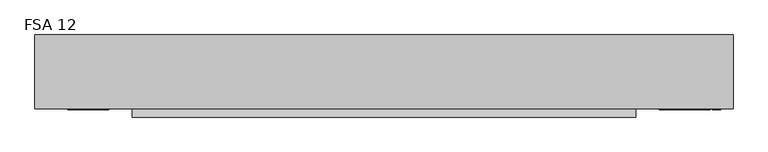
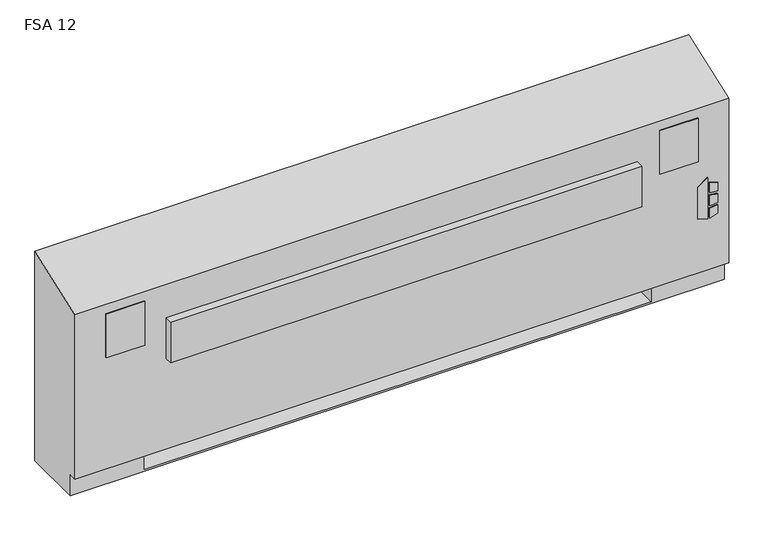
"""IFC4 building model written with IfcOpenShell, lengths in millimetres: proxy geometry, Vertical_Fan_Coil_Unit_-_FSA_-_IEC_-_2-Pipe_FS-FR_LH_2022 : FSA 12."""

from ifc_helpers import new_model, si_unit, point, frame, frame_2d, origin, place, context, project, spatial, polyline, circle_curve, trimmed, segment, composite_curve, outline, extrude, source, transform, mapped, element, save
from ifc_brep_helpers import plane_surface, revolved_surface, advanced_brep


def fsa_12_a108baa8(model_context):
    return source(origin(), model_context, "Body", "SolidModel", [
        extrude(outline(polyline([(263.9480703, 1128.7868862), (254.0, 1160.9602728), (396.1709244, 1160.9602728), (373.1489183, 1128.7868862), (263.9480703, 1128.7868862)])), frame((0.0, 12.7, 0.0), z_axis=(0.0, 1.0, 0.0), x_axis=(0.0, 0.0, 1.0)), (0.0, 0.0, 1.0), 3.175),
        extrude(outline(polyline([(342.9473557, 1167.7186058), (339.7449632, 1193.8), (368.9738042, 1193.8), (377.0382193, 1167.7186058), (342.9473557, 1167.7186058)])), frame((0.0, 12.7, 0.0), z_axis=(0.0, 1.0, 0.0), x_axis=(0.0, 0.0, 1.0)), (0.0, 0.0, 1.0), 3.175),
        extrude(outline(polyline([(291.0838288, 1193.8), (287.4183279, 1167.7186058), (254.0, 1167.7186058), (262.6342372, 1193.8), (291.0838288, 1193.8)])), frame((0.0, 12.7, 0.0), z_axis=(0.0, 1.0, 0.0), x_axis=(0.0, 0.0, 1.0)), (0.0, 0.0, 1.0), 3.175),
        extrude(outline(polyline([(330.3989903, 1193.8), (332.6808166, 1167.7186058), (296.7432681, 1167.7186058), (299.4845331, 1193.8), (330.3989903, 1193.8)])), frame((0.0, 12.7, 0.0), z_axis=(0.0, 1.0, 0.0), x_axis=(0.0, 0.0, 1.0)), (0.0, 0.0, 1.0), 3.175),
        extrude(outline(polyline([(1111.25, 223.266), (1111.25, 81.534), (990.6, 81.534), (990.6, 223.266), (1111.25, 223.266)])), frame((0.0, 0.0, 327.025), z_axis=(0.0, 0.0, 1.0), x_axis=(1.0, 0.0, 0.0)), (0.0, 0.0, 1.0), 260.35),
        extrude(outline(polyline([(-698.5, 12.7), (-825.5, 12.7), (-825.5, 15.875), (-698.5, 15.875), (-698.5, 12.7)])), frame((0.0, 0.0, 463.55), z_axis=(0.0, 0.0, 1.0), x_axis=(1.0, 0.0, 0.0)), (0.0, 0.0, 1.0), 152.4),
        extrude(outline(polyline([(1130.3, 12.7), (1003.3, 12.7), (1003.3, 15.875), (1130.3, 15.875), (1130.3, 12.7)])), frame((0.0, 0.0, 463.55), z_axis=(0.0, 0.0, 1.0), x_axis=(1.0, 0.0, 0.0)), (0.0, 0.0, 1.0), 152.4),
        extrude(outline(composite_curve([segment(trimmed(circle_curve(frame_2d((-749.3, 130.175)), 9.525), [point((-758.825, 130.175))], [point((-739.775, 130.175))], False, "CARTESIAN"), True, "CONTINUOUS"), segment(trimmed(circle_curve(frame_2d((-749.3, 130.175)), 9.525), [point((-739.775, 130.175))], [point((-758.825, 130.175))], False, "CARTESIAN"), True, "CONTINUOUS")], self_intersect=False)), frame((0.0, 0.0, 101.6), z_axis=(0.0, 0.0, 1.0), x_axis=(1.0, 0.0, 0.0)), (0.0, 0.0, 1.0), 25.4),
        extrude(outline(polyline([(-850.9, 63.5), (-850.9, 196.85), (-685.8, 196.85), (-685.8, 63.5), (-850.9, 63.5)])), frame((0.0, 0.0, 127.0), z_axis=(0.0, 0.0, 1.0), x_axis=(1.0, 0.0, 0.0)), (0.0, 0.0, 1.0), 50.8),
        extrude(outline(polyline([(930.275, -9.525), (-625.475, -9.525), (-625.475, 15.875), (930.275, 15.875), (930.275, -9.525)])), frame((0.0, 0.0, 389.3009245), z_axis=(0.0, 0.0, 1.0), x_axis=(1.0, 0.0, 0.0)), (0.0, 0.0, 1.0), 142.875),
        extrude(outline(composite_curve([segment(trimmed(circle_curve(frame_2d((109.347, 456.819)), 7.9375), [point((109.347, 464.7565))], [point((109.347, 448.8815))], False, "CARTESIAN"), True, "CONTINUOUS"), segment(trimmed(circle_curve(frame_2d((109.347, 456.819)), 7.9375), [point((109.347, 448.8815))], [point((109.347, 464.7565))], False, "CARTESIAN"), True, "CONTINUOUS")], self_intersect=False)), frame((-736.6, 0.0, 0.0), z_axis=(1.0, 0.0, 0.0), x_axis=(0.0, 1.0, 0.0)), (0.0, 0.0, 1.0), 50.8),
        extrude(outline(composite_curve([segment(trimmed(circle_curve(frame_2d((157.4546, 429.4632)), 7.9375), [point((157.4546, 437.4007))], [point((157.4546, 421.5257))], False, "CARTESIAN"), True, "CONTINUOUS"), segment(trimmed(circle_curve(frame_2d((157.4546, 429.4632)), 7.9375), [point((157.4546, 421.5257))], [point((157.4546, 437.4007))], False, "CARTESIAN"), True, "CONTINUOUS")], self_intersect=False)), frame((-736.6, 0.0, 0.0), z_axis=(1.0, 0.0, 0.0), x_axis=(0.0, 1.0, 0.0)), (0.0, 0.0, 1.0), 50.8),
        advanced_brep(
        [(-927.1, 244.475, 0.0), (1231.9, 244.475, 0.0), (1231.9, 41.275, 0.0), (-927.1, 41.275, 0.0), (-927.1, 244.475, 730.25), (1231.9, 244.475, 730.25), (990.6, 244.475, 73.025), (1219.2, 244.475, 73.025), (1219.2, 244.475, 654.05), (990.6, 244.475, 654.05), (990.6, 244.475, 414.8650565), (1019.175, 244.475, 414.8650565), (1019.175, 244.475, 385.2349435), (990.6, 244.475, 385.2349435), (990.6, 244.475, 287.3375), (1019.175, 244.475, 287.3375), (1019.175, 244.475, 258.7625), (990.6, 244.475, 258.7625), (990.6, 244.475, 141.2875), (1019.175, 244.475, 141.2875), (1019.175, 244.475, 112.7125), (990.6, 244.475, 112.7125), (-685.8, 244.475, 654.05), (-914.4, 244.475, 654.05), (-914.4, 244.475, 73.025), (-685.8, 244.475, 73.025), (-685.8, 244.475, 112.7125), (-714.375, 244.475, 112.7125), (-714.375, 244.475, 141.2875), (-685.8, 244.475, 141.2875), (-685.8, 244.475, 258.7625), (-714.375, 244.475, 258.7625), (-714.375, 244.475, 287.3375), (-685.8, 244.475, 287.3375), (-685.8, 244.475, 385.2349435), (-714.375, 244.475, 385.2349435), (-714.375, 244.475, 414.8650565), (-685.8, 244.475, 414.8650565), (1008.8626, 244.475, 127.0), (997.7374, 244.475, 127.0), (1008.8626, 244.475, 400.05), (997.7374, 244.475, 400.05), (1008.8626, 244.475, 273.05), (997.7374, 244.475, 273.05), (-692.9374, 244.475, 127.0), (-704.0626, 244.475, 127.0), (-692.9374, 244.475, 273.05), (-704.0626, 244.475, 273.05), (-692.9374, 244.475, 400.05), (-704.0626, 244.475, 400.05), (-927.1, 41.275, 73.025), (-927.1, 15.875, 73.025), (-927.1, 15.875, 647.7), (1231.9, 15.875, 73.025), (1231.9, 15.875, 647.7), (1231.9, 41.275, 73.025), (-685.8, 41.275, 73.025), (-685.8, 225.425, 73.025), (990.6, 225.425, 73.025), (990.6, 41.275, 73.025), (990.6, 41.275, 6.35), (-685.8, 41.275, 6.35), (990.6, 41.275, 654.05), (1219.2, 41.275, 654.05), (1219.2, 41.275, 73.025), (990.6, 41.275, 73.025), (-685.8, 41.275, 654.05), (-685.8, 41.275, 73.025), (-914.4, 41.275, 73.025), (-914.4, 41.275, 654.05), (990.6, 225.425, 73.025), (990.6, 238.125, 112.7125), (990.6, 238.125, 141.2875), (990.6, 238.125, 258.7625), (990.6, 238.125, 287.3375), (990.6, 238.125, 385.2349435), (990.6, 238.125, 414.8650565), (-685.8, 225.425, 73.025), (-685.8, 238.125, 414.8650565), (-685.8, 238.125, 385.2349435), (-685.8, 238.125, 287.3375), (-685.8, 238.125, 258.7625), (-685.8, 238.125, 141.2875), (-685.8, 238.125, 112.7125), (-685.8, 225.425, 6.35), (990.6, 225.425, 6.35), (1019.175, 238.125, 112.7125), (1019.175, 238.125, 141.2875), (997.7374, 238.125, 127.0), (1008.8626, 238.125, 127.0), (1019.175, 238.125, 258.7625), (1019.175, 238.125, 287.3375), (997.7374, 238.125, 273.05), (1008.8626, 238.125, 273.05), (1019.175, 238.125, 385.2349435), (1019.175, 238.125, 414.8650565), (997.7374, 238.125, 400.05), (1008.8626, 238.125, 400.05), (-714.375, 238.125, 141.2875), (-714.375, 238.125, 112.7125), (-704.0626, 238.125, 127.0), (-692.9374, 238.125, 127.0), (-714.375, 238.125, 287.3375), (-714.375, 238.125, 258.7625), (-704.0626, 238.125, 273.05), (-692.9374, 238.125, 273.05), (-714.375, 238.125, 414.8650565), (-714.375, 238.125, 385.2349435), (-704.0626, 238.125, 400.05), (-692.9374, 238.125, 400.05)],
        [
            (0, 1),
            (1, 2),
            (2, 3),
            (3, 0),
            (0, 4),
            (4, 5),
            (5, 1),
            (6, 7),
            (7, 8),
            (8, 9),
            (9, 10),
            (10, 11),
            (11, 12),
            (12, 13),
            (13, 14),
            (14, 15),
            (15, 16),
            (16, 17),
            (17, 18),
            (18, 19),
            (19, 20),
            (20, 21),
            (21, 6),
            (22, 23),
            (23, 24),
            (24, 25),
            (25, 26),
            (26, 27),
            (27, 28),
            (28, 29),
            (29, 30),
            (30, 31),
            (31, 32),
            (32, 33),
            (33, 34),
            (34, 35),
            (35, 36),
            (36, 37),
            (37, 22),
            (38, 39, circle_curve(frame((1003.3, 244.475, 127.0), z_axis=(0.0, -1.0, 0.0), x_axis=(-1.0, 0.0, 0.0)), 5.5626)),
            (39, 38, circle_curve(frame((1003.3, 244.475, 127.0), z_axis=(0.0, -1.0, 0.0), x_axis=(-1.0, 0.0, 0.0)), 5.5626)),
            (40, 41, circle_curve(frame((1003.3, 244.475, 400.05), z_axis=(0.0, -1.0, 0.0), x_axis=(-1.0, 0.0, 0.0)), 5.5626)),
            (41, 40, circle_curve(frame((1003.3, 244.475, 400.05), z_axis=(0.0, -1.0, 0.0), x_axis=(-1.0, 0.0, 0.0)), 5.5626)),
            (42, 43, circle_curve(frame((1003.3, 244.475, 273.05), z_axis=(0.0, -1.0, 0.0), x_axis=(-1.0, 0.0, 0.0)), 5.5626)),
            (43, 42, circle_curve(frame((1003.3, 244.475, 273.05), z_axis=(0.0, -1.0, 0.0), x_axis=(-1.0, 0.0, 0.0)), 5.5626)),
            (44, 45, circle_curve(frame((-698.5, 244.475, 127.0), z_axis=(0.0, -1.0, 0.0), x_axis=(-1.0, 0.0, 0.0)), 5.5626)),
            (45, 44, circle_curve(frame((-698.5, 244.475, 127.0), z_axis=(0.0, -1.0, 0.0), x_axis=(-1.0, 0.0, 0.0)), 5.5626)),
            (46, 47, circle_curve(frame((-698.5, 244.475, 273.05), z_axis=(0.0, -1.0, 0.0), x_axis=(-1.0, 0.0, 0.0)), 5.5626)),
            (47, 46, circle_curve(frame((-698.5, 244.475, 273.05), z_axis=(0.0, -1.0, 0.0), x_axis=(-1.0, 0.0, 0.0)), 5.5626)),
            (48, 49, circle_curve(frame((-698.5, 244.475, 400.05), z_axis=(0.0, -1.0, 0.0), x_axis=(-1.0, 0.0, 0.0)), 5.5626)),
            (49, 48, circle_curve(frame((-698.5, 244.475, 400.05), z_axis=(0.0, -1.0, 0.0), x_axis=(-1.0, 0.0, 0.0)), 5.5626)),
            (3, 50),
            (50, 51),
            (51, 52),
            (52, 4),
            (51, 53),
            (53, 54),
            (54, 52),
            (5, 54),
            (53, 55),
            (55, 2),
            (50, 56),
            (56, 57),
            (57, 58),
            (58, 59),
            (59, 55),
            (59, 60),
            (60, 61),
            (61, 56),
            (62, 63),
            (63, 64),
            (64, 65),
            (65, 62),
            (66, 67),
            (67, 68),
            (68, 69),
            (69, 66),
            (65, 70),
            (70, 6),
            (21, 71),
            (71, 72),
            (72, 18),
            (17, 73),
            (73, 74),
            (74, 14),
            (13, 75),
            (75, 76),
            (76, 10),
            (9, 62),
            (64, 7),
            (63, 8),
            (69, 23),
            (22, 66),
            (68, 24),
            (67, 77),
            (77, 25),
            (37, 78),
            (78, 79),
            (79, 34),
            (33, 80),
            (80, 81),
            (81, 30),
            (29, 82),
            (82, 83),
            (83, 26),
            (57, 84),
            (84, 85),
            (85, 58),
            (85, 60),
            (84, 61),
            (71, 86),
            (86, 87),
            (87, 72),
            (88, 89, circle_curve(frame((1003.3, 238.125, 127.0), z_axis=(0.0, 1.0, 0.0), x_axis=(-1.0, 0.0, 0.0)), 5.5626)),
            (89, 88, circle_curve(frame((1003.3, 238.125, 127.0), z_axis=(0.0, 1.0, 0.0), x_axis=(-1.0, 0.0, 0.0)), 5.5626)),
            (73, 90),
            (90, 91),
            (91, 74),
            (92, 93, circle_curve(frame((1003.3, 238.125, 273.05), z_axis=(0.0, 1.0, 0.0), x_axis=(-1.0, 0.0, 0.0)), 5.5626)),
            (93, 92, circle_curve(frame((1003.3, 238.125, 273.05), z_axis=(0.0, 1.0, 0.0), x_axis=(-1.0, 0.0, 0.0)), 5.5626)),
            (75, 94),
            (94, 95),
            (95, 76),
            (96, 97, circle_curve(frame((1003.3, 238.125, 400.05), z_axis=(0.0, 1.0, 0.0), x_axis=(-1.0, 0.0, 0.0)), 5.5626)),
            (97, 96, circle_curve(frame((1003.3, 238.125, 400.05), z_axis=(0.0, 1.0, 0.0), x_axis=(-1.0, 0.0, 0.0)), 5.5626)),
            (98, 99),
            (99, 83),
            (82, 98),
            (100, 101, circle_curve(frame((-698.5, 238.125, 127.0), z_axis=(0.0, 1.0, 0.0), x_axis=(-1.0, 0.0, 0.0)), 5.5626)),
            (101, 100, circle_curve(frame((-698.5, 238.125, 127.0), z_axis=(0.0, 1.0, 0.0), x_axis=(-1.0, 0.0, 0.0)), 5.5626)),
            (102, 103),
            (103, 81),
            (80, 102),
            (104, 105, circle_curve(frame((-698.5, 238.125, 273.05), z_axis=(0.0, 1.0, 0.0), x_axis=(-1.0, 0.0, 0.0)), 5.5626)),
            (105, 104, circle_curve(frame((-698.5, 238.125, 273.05), z_axis=(0.0, 1.0, 0.0), x_axis=(-1.0, 0.0, 0.0)), 5.5626)),
            (106, 107),
            (107, 79),
            (78, 106),
            (108, 109, circle_curve(frame((-698.5, 238.125, 400.05), z_axis=(0.0, 1.0, 0.0), x_axis=(-1.0, 0.0, 0.0)), 5.5626)),
            (109, 108, circle_curve(frame((-698.5, 238.125, 400.05), z_axis=(0.0, 1.0, 0.0), x_axis=(-1.0, 0.0, 0.0)), 5.5626)),
            (87, 19),
            (86, 20),
            (91, 15),
            (90, 16),
            (95, 11),
            (94, 12),
            (28, 98),
            (99, 27),
            (32, 102),
            (103, 31),
            (36, 106),
            (107, 35),
            (88, 39),
            (38, 89),
            (96, 41),
            (40, 97),
            (92, 43),
            (42, 93),
            (100, 45),
            (44, 101),
            (104, 47),
            (46, 105),
            (108, 49),
            (48, 109),
        ],
        [
            plane_surface(frame((-927.1, 244.475, 0.0), z_axis=(0.0, 0.0, -1.0), x_axis=(1.0, 0.0, 0.0))),
            plane_surface(frame((1231.9, 244.475, 730.25), z_axis=(0.0, 1.0, 0.0), x_axis=(0.0, 0.0, -1.0))),
            plane_surface(frame((-927.1, 244.475, 730.25), z_axis=(-1.0, 0.0, 0.0), x_axis=(0.0, 0.0, -1.0))),
            plane_surface(frame((-927.1, 15.875, 730.25), z_axis=(0.0, -1.0, 0.0), x_axis=(0.0, 0.0, -1.0))),
            plane_surface(frame((1231.9, 15.875, 730.25), z_axis=(1.0, 0.0, 0.0), x_axis=(0.0, 0.0, -1.0))),
            plane_surface(frame((-927.1, 15.875, 73.025), z_axis=(0.0, 0.0, -1.0), x_axis=(1.0, 0.0, 0.0))),
            plane_surface(frame((-927.1, 41.275, 73.025), z_axis=(0.0, -1.0, 0.0), x_axis=(1.0, 0.0, 0.0))),
            plane_surface(frame((990.6, 41.275, 654.05), z_axis=(0.0, 1.0, 0.0), x_axis=(0.0, 0.0, -1.0))),
            plane_surface(frame((990.6, 41.275, 654.05), z_axis=(1.0, 0.0, 0.0), x_axis=(0.0, 1.0, 0.0))),
            plane_surface(frame((990.6, 41.275, 73.025), z_axis=(0.0, 0.0, 1.0), x_axis=(0.0, 1.0, 0.0))),
            plane_surface(frame((1219.2, 41.275, 73.025), z_axis=(-1.0, 0.0, 0.0), x_axis=(0.0, 1.0, 0.0))),
            plane_surface(frame((1219.2, 41.275, 654.05), z_axis=(0.0, 0.0, -1.0), x_axis=(0.0, 1.0, 0.0))),
            plane_surface(frame((-685.8, 41.275, 654.05), z_axis=(0.0, 0.0, -1.0), x_axis=(0.0, 1.0, 0.0))),
            plane_surface(frame((-914.4, 41.275, 654.05), z_axis=(1.0, 0.0, 0.0), x_axis=(0.0, 1.0, 0.0))),
            plane_surface(frame((-914.4, 41.275, 73.025), z_axis=(0.0, 0.0, 1.0), x_axis=(0.0, 1.0, 0.0))),
            plane_surface(frame((-685.8, 41.275, 73.025), z_axis=(-1.0, 0.0, 0.0), x_axis=(0.0, 1.0, 0.0))),
            plane_surface(frame((990.6, 225.425, 73.025), z_axis=(0.0, -1.0, 0.0), x_axis=(0.0, 0.0, -1.0))),
            plane_surface(frame((990.6, 225.425, 73.025), z_axis=(-1.0, 0.0, 0.0), x_axis=(0.0, -1.0, 0.0))),
            plane_surface(frame((990.6, 225.425, 6.35), z_axis=(0.0, 0.0, 1.0), x_axis=(0.0, -1.0, 0.0))),
            plane_surface(frame((-685.8, 225.425, 6.35), z_axis=(1.0, 0.0, 0.0), x_axis=(0.0, -1.0, 0.0))),
            plane_surface(frame((1019.175, 238.125, 141.2875), z_axis=(0.0, -1.0, 0.0), x_axis=(-1.0, 0.0, 0.0))),
            plane_surface(frame((990.6, 244.475, 141.2875), z_axis=(0.0, 0.0, 1.0), x_axis=(0.0, -1.0, 0.0))),
            plane_surface(frame((1019.175, 244.475, 141.2875), z_axis=(1.0, 0.0, 0.0), x_axis=(0.0, -1.0, 0.0))),
            plane_surface(frame((1019.175, 244.475, 112.7125), z_axis=(0.0, 0.0, -1.0), x_axis=(0.0, -1.0, 0.0))),
            plane_surface(frame((990.6, 244.475, 287.3375), z_axis=(0.0, 0.0, 1.0), x_axis=(0.0, -1.0, 0.0))),
            plane_surface(frame((1019.175, 244.475, 287.3375), z_axis=(1.0, 0.0, 0.0), x_axis=(0.0, -1.0, 0.0))),
            plane_surface(frame((1019.175, 244.475, 258.7625), z_axis=(0.0, 0.0, -1.0), x_axis=(0.0, -1.0, 0.0))),
            plane_surface(frame((990.6, 244.475, 414.8650565), z_axis=(0.0, 0.0, 1.0), x_axis=(0.0, -1.0, 0.0))),
            plane_surface(frame((1019.175, 244.475, 414.8650565), z_axis=(1.0, 0.0, 0.0), x_axis=(0.0, -1.0, 0.0))),
            plane_surface(frame((1019.175, 244.475, 385.2349435), z_axis=(0.0, 0.0, -1.0), x_axis=(0.0, -1.0, 0.0))),
            plane_surface(frame((-714.375, 244.475, 141.2875), z_axis=(0.0, 0.0, 1.0), x_axis=(0.0, -1.0, 0.0))),
            plane_surface(frame((-685.8, 244.475, 112.7125), z_axis=(0.0, 0.0, -1.0), x_axis=(0.0, -1.0, 0.0))),
            plane_surface(frame((-714.375, 244.475, 112.7125), z_axis=(-1.0, 0.0, 0.0), x_axis=(0.0, -1.0, 0.0))),
            plane_surface(frame((-714.375, 244.475, 287.3375), z_axis=(0.0, 0.0, 1.0), x_axis=(0.0, -1.0, 0.0))),
            plane_surface(frame((-685.8, 244.475, 258.7625), z_axis=(0.0, 0.0, -1.0), x_axis=(0.0, -1.0, 0.0))),
            plane_surface(frame((-714.375, 244.475, 258.7625), z_axis=(-1.0, 0.0, 0.0), x_axis=(0.0, -1.0, 0.0))),
            plane_surface(frame((-714.375, 244.475, 414.8650565), z_axis=(0.0, 0.0, 1.0), x_axis=(0.0, -1.0, 0.0))),
            plane_surface(frame((-685.8, 244.475, 385.2349435), z_axis=(0.0, 0.0, -1.0), x_axis=(0.0, -1.0, 0.0))),
            plane_surface(frame((-714.375, 244.475, 385.2349435), z_axis=(-1.0, 0.0, 0.0), x_axis=(0.0, -1.0, 0.0))),
            revolved_surface(polyline([(997.7374, 238.125, 127.0), (997.7374, 244.475, 127.0)]), (1003.3, 244.475, 127.0), (0.0, -1.0, 0.0)),
            revolved_surface(polyline([(997.7374, 238.125, 400.05), (997.7374, 244.475, 400.05)]), (1003.3, 244.475, 400.05), (0.0, -1.0, 0.0)),
            revolved_surface(polyline([(997.7374, 238.125, 273.05), (997.7374, 244.475, 273.05)]), (1003.3, 244.475, 273.05), (0.0, -1.0, 0.0)),
            revolved_surface(polyline([(-704.0626, 238.125, 127.0), (-704.0626, 244.475, 127.0)]), (-698.5, 244.475, 127.0), (0.0, -1.0, 0.0)),
            revolved_surface(polyline([(-704.0626, 238.125, 273.05), (-704.0626, 244.475, 273.05)]), (-698.5, 244.475, 273.05), (0.0, -1.0, 0.0)),
            revolved_surface(polyline([(-704.0626, 238.125, 400.05), (-704.0626, 244.475, 400.05)]), (-698.5, 244.475, 400.05), (0.0, -1.0, 0.0)),
            plane_surface(frame((-927.1, 244.475, 730.25), z_axis=(0.0, -0.33964446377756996, 0.9405538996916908), x_axis=(1.0, 0.0, 0.0))),
        ],
        [
            (0, [[1, 2, 3, 4]]),
            (1, [[-1, 5, 6, 7], [8, 9, 10, 11, 12, 13, 14, 15, 16, 17, 18, 19, 20, 21, 22, 23], [24, 25, 26, 27, 28, 29, 30, 31, 32, 33, 34, 35, 36, 37, 38, 39], [40, 41], [42, 43], [44, 45], [46, 47], [48, 49], [50, 51]]),
            (2, [[-5, -4, 52, 53, 54, 55]]),
            (3, [[56, 57, 58, -54]]),
            (4, [[-7, 59, -57, 60, 61, -2]]),
            (5, [[-53, 62, 63, 64, 65, 66, -60, -56]]),
            (6, [[-3, -61, -66, 67, 68, 69, -62, -52]]),
            (7, [[70, 71, 72, 73]]),
            (7, [[74, 75, 76, 77]]),
            (8, [[-73, 78, 79, -23, 80, 81, 82, -19, 83, 84, 85, -15, 86, 87, 88, -11, 89]]),
            (9, [[-72, 90, -8, -79, -78]]),
            (10, [[-71, 91, -9, -90]]),
            (11, [[-70, -89, -10, -91]]),
            (12, [[-77, 92, -24, 93]]),
            (13, [[-76, 94, -25, -92]]),
            (14, [[-75, 95, 96, -26, -94]]),
            (15, [[-74, -93, -39, 97, 98, 99, -35, 100, 101, 102, -31, 103, 104, 105, -27, -96, -95]]),
            (16, [[-64, 106, 107, 108]]),
            (17, [[-108, 109, -67, -65]]),
            (18, [[-107, 110, -68, -109]]),
            (19, [[-106, -63, -69, -110]]),
            (20, [[111, 112, 113, -81], [114, 115]]),
            (20, [[116, 117, 118, -84], [119, 120]]),
            (20, [[121, 122, 123, -87], [124, 125]]),
            (20, [[126, 127, -104, 128], [129, 130]]),
            (20, [[131, 132, -101, 133], [134, 135]]),
            (20, [[136, 137, -98, 138], [139, 140]]),
            (21, [[-113, 141, -20, -82]]),
            (22, [[-112, 142, -21, -141]]),
            (23, [[-111, -80, -22, -142]]),
            (24, [[-118, 143, -16, -85]]),
            (25, [[-117, 144, -17, -143]]),
            (26, [[-116, -83, -18, -144]]),
            (27, [[-123, 145, -12, -88]]),
            (28, [[-122, 146, -13, -145]]),
            (29, [[-121, -86, -14, -146]]),
            (30, [[-128, -103, -30, 147]]),
            (31, [[-127, 148, -28, -105]]),
            (32, [[-126, -147, -29, -148]]),
            (33, [[-133, -100, -34, 149]]),
            (34, [[-132, 150, -32, -102]]),
            (35, [[-131, -149, -33, -150]]),
            (36, [[-138, -97, -38, 151]]),
            (37, [[-137, 152, -36, -99]]),
            (38, [[-136, -151, -37, -152]]),
            (39, [[153, -40, 154, -114]]),
            (39, [[-153, -115, -154, -41]]),
            (40, [[155, -42, 156, -124]]),
            (40, [[-155, -125, -156, -43]]),
            (41, [[157, -44, 158, -119]]),
            (41, [[-157, -120, -158, -45]]),
            (42, [[159, -46, 160, -129]]),
            (42, [[-159, -130, -160, -47]]),
            (43, [[161, -48, 162, -134]]),
            (43, [[-161, -135, -162, -49]]),
            (44, [[163, -50, 164, -139]]),
            (44, [[-163, -140, -164, -51]]),
            (45, [[-6, -55, -58, -59]]),
        ],
    ),
    ])


if __name__ == "__main__":
    model = new_model("IFC4")
    model_context = context("Model", 3, world=origin())
    ifc_project = project(units=[si_unit("LENGTHUNIT", "METRE", prefix="MILLI")], contexts=[model_context])
    site = spatial("IfcSite", under=ifc_project)
    building = spatial("IfcBuilding", under=site)
    placement = place(None, origin())
    fsa_12_shape = fsa_12_a108baa8(model_context)
    element("IfcBuildingElementProxy", 1, Name="Vertical_Fan_Coil_Unit_-_FSA_-_IEC_-_2-Pipe_FS-FR_LH_2022 : FSA 12", ObjectType="Vertical_Fan_Coil_Unit_-_FSA_-_IEC_-_2-Pipe_FS-FR_LH_2022 : FSA 12", at=placement, inside=building, context=model_context, shape_type="MappedRepresentation", body=[
        mapped(fsa_12_shape, transform((0.0, 0.0, 0.0), x_axis=(1.0, 0.0, 0.0), y_axis=(0.0, 1.0, 0.0), z_axis=(0.0, 0.0, 1.0))),
    ])
    save(model, "model.ifc")
